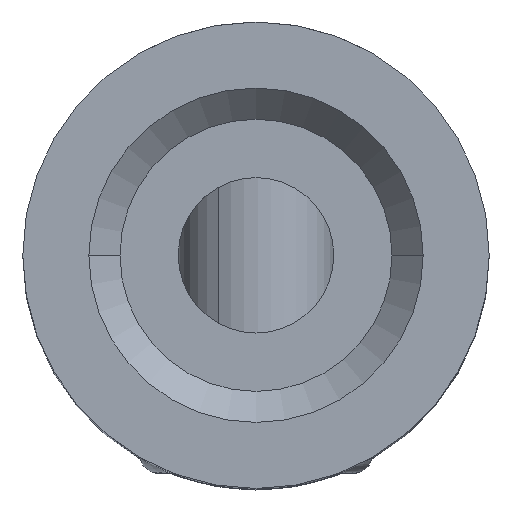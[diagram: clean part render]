
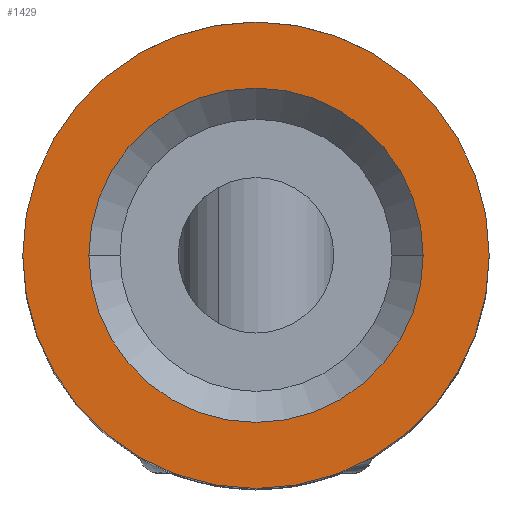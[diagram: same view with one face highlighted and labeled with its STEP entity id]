
A CAD part, top view. The second image highlights one B-rep face of the part: STEP entity #1429.
In plain terms, the highlighted planar face has unit normal (0, 0, 1).
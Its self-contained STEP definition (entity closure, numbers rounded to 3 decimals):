
#1004=CARTESIAN_POINT('Vertex',(3.,0.,10.65)) ;
#1011=CARTESIAN_POINT('Vertex',(-3.,0.,10.65)) ;
#1014=CARTESIAN_POINT('Axis2P3D Location',(0.,0.,10.65)) ;
#1259=CARTESIAN_POINT('Axis2P3D Location',(0.,0.,10.65)) ;
#1402=CARTESIAN_POINT('Axis2P3D Location',(0.,0.,10.65)) ;
#1411=CARTESIAN_POINT('Axis2P3D Location',(0.,0.,10.65)) ;
#1415=CARTESIAN_POINT('Vertex',(2.15,0.,10.65)) ;
#1417=CARTESIAN_POINT('Vertex',(-2.15,0.,10.65)) ;
#1420=CARTESIAN_POINT('Axis2P3D Location',(0.,0.,10.65)) ;
#1015=DIRECTION('Axis2P3D Direction',(0.,0.,1.)) ;
#1260=DIRECTION('Axis2P3D Direction',(0.,0.,1.)) ;
#1403=DIRECTION('Axis2P3D Direction',(0.,0.,1.)) ;
#1404=DIRECTION('Axis2P3D XDirection',(1.,0.,0.)) ;
#1412=DIRECTION('Axis2P3D Direction',(0.,0.,1.)) ;
#1421=DIRECTION('Axis2P3D Direction',(0.,0.,1.)) ;
#1016=AXIS2_PLACEMENT_3D('Circle Axis2P3D',#1014,#1015,$) ;
#1261=AXIS2_PLACEMENT_3D('Circle Axis2P3D',#1259,#1260,$) ;
#1405=AXIS2_PLACEMENT_3D('Plane Axis2P3D',#1402,#1403,#1404) ;
#1413=AXIS2_PLACEMENT_3D('Circle Axis2P3D',#1411,#1412,$) ;
#1422=AXIS2_PLACEMENT_3D('Circle Axis2P3D',#1420,#1421,$) ;
#1408=ORIENTED_EDGE('',*,*,#1018,.T.) ;
#1409=ORIENTED_EDGE('',*,*,#1263,.T.) ;
#1426=ORIENTED_EDGE('',*,*,#1419,.F.) ;
#1427=ORIENTED_EDGE('',*,*,#1424,.F.) ;
#1428=FACE_BOUND('',#1425,.T.) ;
#1429=ADVANCED_FACE('Koerper',(#1410,#1428),#1406,.T.) ;
#1017=CIRCLE('generated circle',#1016,3.) ;
#1262=CIRCLE('generated circle',#1261,3.) ;
#1414=CIRCLE('generated circle',#1413,2.15) ;
#1423=CIRCLE('generated circle',#1422,2.15) ;
#1018=EDGE_CURVE('',#1005,#1012,#1017,.T.) ;
#1263=EDGE_CURVE('',#1012,#1005,#1262,.T.) ;
#1419=EDGE_CURVE('',#1416,#1418,#1414,.T.) ;
#1424=EDGE_CURVE('',#1418,#1416,#1423,.T.) ;
#1407=EDGE_LOOP('',(#1408,#1409)) ;
#1425=EDGE_LOOP('',(#1426,#1427)) ;
#1410=FACE_OUTER_BOUND('',#1407,.T.) ;
#1406=PLANE('Plane',#1405) ;
#1005=VERTEX_POINT('',#1004) ;
#1012=VERTEX_POINT('',#1011) ;
#1416=VERTEX_POINT('',#1415) ;
#1418=VERTEX_POINT('',#1417) ;
